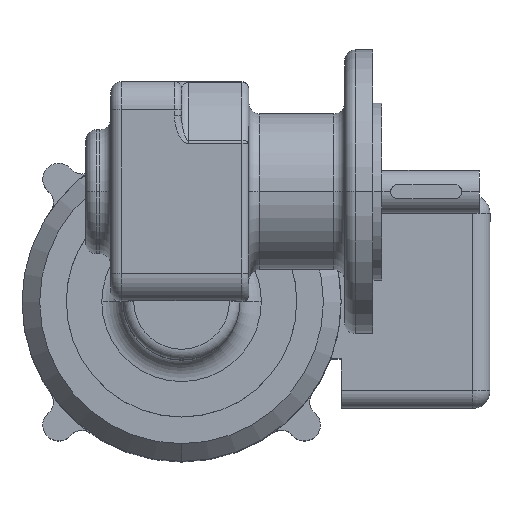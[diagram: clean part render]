
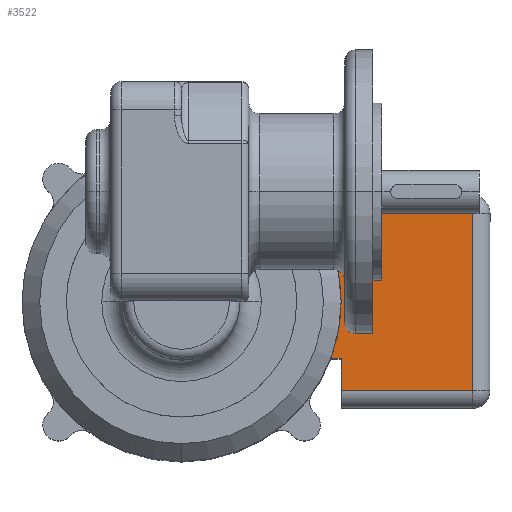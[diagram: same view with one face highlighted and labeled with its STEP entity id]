
A CAD part, top view. The second image highlights one B-rep face of the part: STEP entity #3522.
In plain terms, the highlighted planar face has unit normal (0, 0, 1).
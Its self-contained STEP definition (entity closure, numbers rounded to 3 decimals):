
#1768 = CARTESIAN_POINT ( 'NONE',  ( -15.447, 42.336, -15. ) ) ;
#1817 = DIRECTION ( 'NONE',  ( -1., 0., 0. ) ) ;
#1818 = DIRECTION ( 'NONE',  ( 0., 0., 1. ) ) ;
#1819 = CARTESIAN_POINT ( 'NONE',  ( 0.553, 0.277, -15. ) ) ;
#1820 = AXIS2_PLACEMENT_3D ( 'NONE', #1819, #1818, #1817 ) ;
#1821 = CIRCLE ( 'NONE', #1820, 45. ) ;
#1822 = CARTESIAN_POINT ( 'NONE',  ( 16.553, 42.336, -15. ) ) ;
#3507 = EDGE_CURVE ( 'NONE', #3589, #4634, #6188, .T. ) ;
#3508 = ORIENTED_EDGE ( 'NONE', *, *, #4643, .F. ) ;
#3509 = ORIENTED_EDGE ( 'NONE', *, *, #3510, .F. ) ;
#3510 = EDGE_CURVE ( 'NONE', #3511, #4641, #6184, .T. ) ;
#3511 = VERTEX_POINT ( 'NONE', #6180 ) ;
#3512 = ORIENTED_EDGE ( 'NONE', *, *, #3513, .T. ) ;
#3513 = EDGE_CURVE ( 'NONE', #3511, #3514, #6179, .T. ) ;
#3514 = VERTEX_POINT ( 'NONE', #6175 ) ;
#3515 = ORIENTED_EDGE ( 'NONE', *, *, #3516, .T. ) ;
#3516 = EDGE_CURVE ( 'NONE', #3514, #3526, #6174, .T. ) ;
#3522 = ADVANCED_FACE ( 'NONE', ( #6225 ), #6224, .F. ) ;
#3523 = EDGE_LOOP ( 'NONE', ( #3524, #3528, #3531, #3590, #3508, #3509, #3512, #3515 ) ) ;
#3524 = ORIENTED_EDGE ( 'NONE', *, *, #3525, .T. ) ;
#3525 = EDGE_CURVE ( 'NONE', #3526, #3527, #6219, .T. ) ;
#3526 = VERTEX_POINT ( 'NONE', #6215 ) ;
#3527 = VERTEX_POINT ( 'NONE', #6214 ) ;
#3528 = ORIENTED_EDGE ( 'NONE', *, *, #3529, .T. ) ;
#3529 = EDGE_CURVE ( 'NONE', #3527, #3530, #6213, .T. ) ;
#3530 = VERTEX_POINT ( 'NONE', #6209 ) ;
#3531 = ORIENTED_EDGE ( 'NONE', *, *, #3588, .T. ) ;
#3588 = EDGE_CURVE ( 'NONE', #3530, #3589, #6315, .T. ) ;
#3589 = VERTEX_POINT ( 'NONE', #6311 ) ;
#3590 = ORIENTED_EDGE ( 'NONE', *, *, #3507, .T. ) ;
#4634 = VERTEX_POINT ( 'NONE', #1768 ) ;
#4641 = VERTEX_POINT ( 'NONE', #1822 ) ;
#4643 = EDGE_CURVE ( 'NONE', #4641, #4634, #1821, .T. ) ;
#6171 = DIRECTION ( 'NONE',  ( 0., 1., 0. ) ) ;
#6172 = VECTOR ( 'NONE', #6171, 1000. ) ;
#6173 = CARTESIAN_POINT ( 'NONE',  ( 25.553, 45.277, -15. ) ) ;
#6174 = LINE ( 'NONE', #6173, #6172 ) ;
#6175 = CARTESIAN_POINT ( 'NONE',  ( 25.553, 45.277, -15. ) ) ;
#6176 = DIRECTION ( 'NONE',  ( 1., 0., 0. ) ) ;
#6177 = VECTOR ( 'NONE', #6176, 1000. ) ;
#6178 = CARTESIAN_POINT ( 'NONE',  ( 30.553, 45.277, -15. ) ) ;
#6179 = LINE ( 'NONE', #6178, #6177 ) ;
#6180 = CARTESIAN_POINT ( 'NONE',  ( 16.553, 45.277, -15. ) ) ;
#6181 = DIRECTION ( 'NONE',  ( 0., -1., 0. ) ) ;
#6182 = VECTOR ( 'NONE', #6181, 1000. ) ;
#6183 = CARTESIAN_POINT ( 'NONE',  ( 16.553, 45.277, -15. ) ) ;
#6184 = LINE ( 'NONE', #6183, #6182 ) ;
#6185 = DIRECTION ( 'NONE',  ( 0., -1., 0. ) ) ;
#6186 = VECTOR ( 'NONE', #6185, 1000. ) ;
#6187 = CARTESIAN_POINT ( 'NONE',  ( -15.447, 45.277, -15. ) ) ;
#6188 = LINE ( 'NONE', #6187, #6186 ) ;
#6209 = CARTESIAN_POINT ( 'NONE',  ( -24.447, 45.277, -15. ) ) ;
#6210 = DIRECTION ( 'NONE',  ( 0., -1., 0. ) ) ;
#6211 = VECTOR ( 'NONE', #6210, 1000. ) ;
#6212 = CARTESIAN_POINT ( 'NONE',  ( -24.447, 45.277, -15. ) ) ;
#6213 = LINE ( 'NONE', #6212, #6211 ) ;
#6214 = CARTESIAN_POINT ( 'NONE',  ( -24.447, 82.277, -15. ) ) ;
#6215 = CARTESIAN_POINT ( 'NONE',  ( 25.553, 82.277, -15. ) ) ;
#6216 = DIRECTION ( 'NONE',  ( -1., 0., 0. ) ) ;
#6217 = VECTOR ( 'NONE', #6216, 1000. ) ;
#6218 = CARTESIAN_POINT ( 'NONE',  ( -15.447, 82.277, -15. ) ) ;
#6219 = LINE ( 'NONE', #6218, #6217 ) ;
#6220 = DIRECTION ( 'NONE',  ( -1., 0., 0. ) ) ;
#6221 = DIRECTION ( 'NONE',  ( 0., 0., -1. ) ) ;
#6222 = CARTESIAN_POINT ( 'NONE',  ( -15.447, 45.277, -15. ) ) ;
#6223 = AXIS2_PLACEMENT_3D ( 'NONE', #6222, #6221, #6220 ) ;
#6224 = PLANE ( 'NONE',  #6223 ) ;
#6225 = FACE_OUTER_BOUND ( 'NONE', #3523, .T. ) ;
#6311 = CARTESIAN_POINT ( 'NONE',  ( -15.447, 45.277, -15. ) ) ;
#6312 = DIRECTION ( 'NONE',  ( 1., 0., 0. ) ) ;
#6313 = VECTOR ( 'NONE', #6312, 1000. ) ;
#6314 = CARTESIAN_POINT ( 'NONE',  ( 30.553, 45.277, -15. ) ) ;
#6315 = LINE ( 'NONE', #6314, #6313 ) ;
